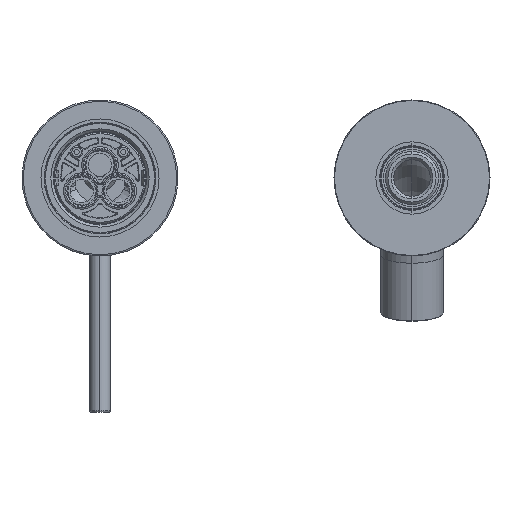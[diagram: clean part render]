
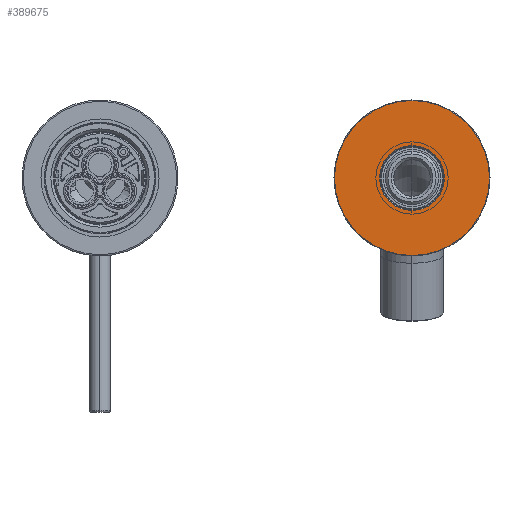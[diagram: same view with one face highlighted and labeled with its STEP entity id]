
A CAD part, left-side view. The second image highlights one B-rep face of the part: STEP entity #389675.
In plain terms, the highlighted planar face has unit normal (-1, 0, 0) as drawn and (0, -1, 0) by its records, which use the part's own axes.
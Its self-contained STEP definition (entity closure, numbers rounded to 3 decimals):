
#389360=CARTESIAN_POINT('',(0.,0.,0.));
#389361=DIRECTION('',(0.,1.,0.));
#389362=DIRECTION('',(-1.,0.,0.));
#389363=AXIS2_PLACEMENT_3D('',#389360,#389361,#389362);
#389365=CARTESIAN_POINT('',(0.,0.,0.));
#389366=DIRECTION('',(0.,1.,0.));
#389367=DIRECTION('',(1.,0.,0.));
#389368=AXIS2_PLACEMENT_3D('',#389365,#389366,#389367);
#389370=CARTESIAN_POINT('',(0.,0.,0.));
#389371=DIRECTION('',(0.,1.,0.));
#389372=DIRECTION('',(-1.,0.,0.));
#389373=AXIS2_PLACEMENT_3D('',#389370,#389371,#389372);
#389375=CARTESIAN_POINT('',(0.,0.,0.));
#389376=DIRECTION('',(0.,1.,0.));
#389377=DIRECTION('',(1.,0.,0.));
#389378=AXIS2_PLACEMENT_3D('',#389375,#389376,#389377);
#389486=CARTESIAN_POINT('',(-12.45,0.,0.));
#389487=CARTESIAN_POINT('',(12.45,0.,0.));
#389488=VERTEX_POINT('',#389486);
#389489=VERTEX_POINT('',#389487);
#389494=CARTESIAN_POINT('',(-29.8,0.,0.));
#389495=CARTESIAN_POINT('',(29.8,0.,0.));
#389496=VERTEX_POINT('',#389494);
#389497=VERTEX_POINT('',#389495);
#389659=CARTESIAN_POINT('',(0.,0.,0.));
#389660=DIRECTION('',(0.,1.,0.));
#389661=DIRECTION('',(1.,0.,0.));
#389662=AXIS2_PLACEMENT_3D('',#389659,#389660,#389661);
#389663=PLANE('',#389662);
#389665=ORIENTED_EDGE('',*,*,#389664,.T.);
#389667=ORIENTED_EDGE('',*,*,#389666,.T.);
#389668=EDGE_LOOP('',(#389665,#389667));
#389669=FACE_OUTER_BOUND('',#389668,.F.);
#389671=ORIENTED_EDGE('',*,*,#389670,.F.);
#389672=ORIENTED_EDGE('',*,*,#389649,.F.);
#389673=EDGE_LOOP('',(#389671,#389672));
#389674=FACE_BOUND('',#389673,.F.);
#389364=CIRCLE('',#389363,12.45);
#389369=CIRCLE('',#389368,12.45);
#389374=CIRCLE('',#389373,29.8);
#389379=CIRCLE('',#389378,29.8);
#389649=EDGE_CURVE('',#389489,#389488,#389369,.T.);
#389664=EDGE_CURVE('',#389496,#389497,#389374,.T.);
#389666=EDGE_CURVE('',#389497,#389496,#389379,.T.);
#389670=EDGE_CURVE('',#389488,#389489,#389364,.T.);
#389675=ADVANCED_FACE('',(#389669,#389674),#389663,.F.);
